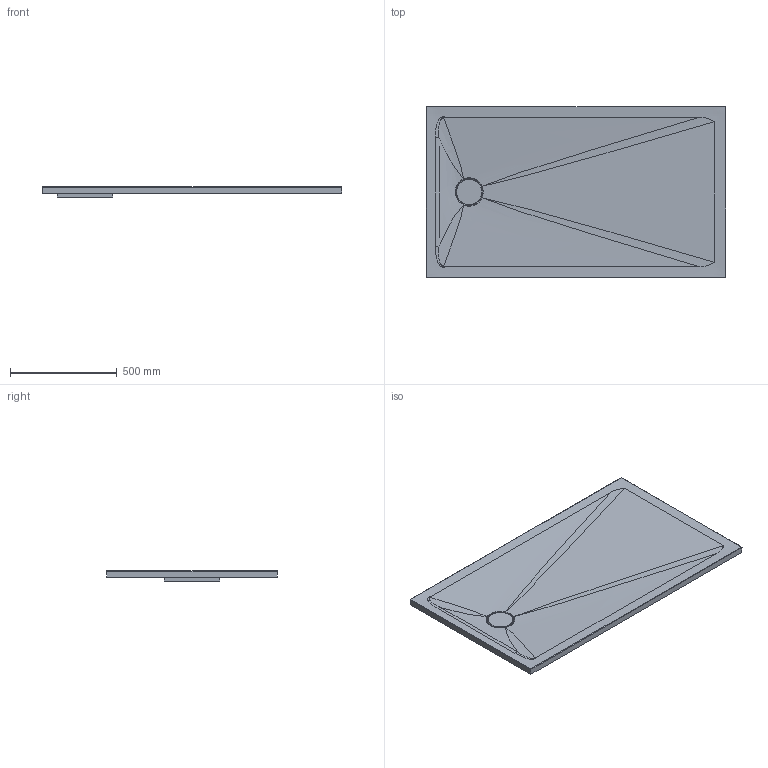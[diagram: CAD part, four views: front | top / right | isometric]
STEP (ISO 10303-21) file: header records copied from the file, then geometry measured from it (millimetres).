
FILE_DESCRIPTION (( 'STEP AP214' ), '1' );
FILE_NAME ('ARON 140x80.STEP', '2024-05-13T11:33:20', ( '' ), ( '' ), 'SwSTEP 2.0', 'SolidWorks 2021', '' );
FILE_SCHEMA (( 'AUTOMOTIVE_DESIGN' ));
Length unit declared in the file: millimetre
Products named in the file (1): ARON 140x80
Bounding box: 1400 x 800 x 48 mm (x, y, z)
Volume: 27861103.9 mm3; surface area: 2408846.3 mm2
Topology: 2 solids, 2 shells, 75 faces, 170 edges, 101 vertices
Faces by surface type: bspline 39, cylinder 19, plane 17
Full cylindrical faces by diameter (mm): 9 x3, 90 x1, 119 x1
Entity records: 12291 total; most frequent: CARTESIAN_POINT 10907, ORIENTED_EDGE 316, DIRECTION 166, EDGE_CURVE 158, VERTEX_POINT 101, B_SPLINE_CURVE_WITH_KNOTS 93, EDGE_LOOP 91, FACE_OUTER_BOUND 83
